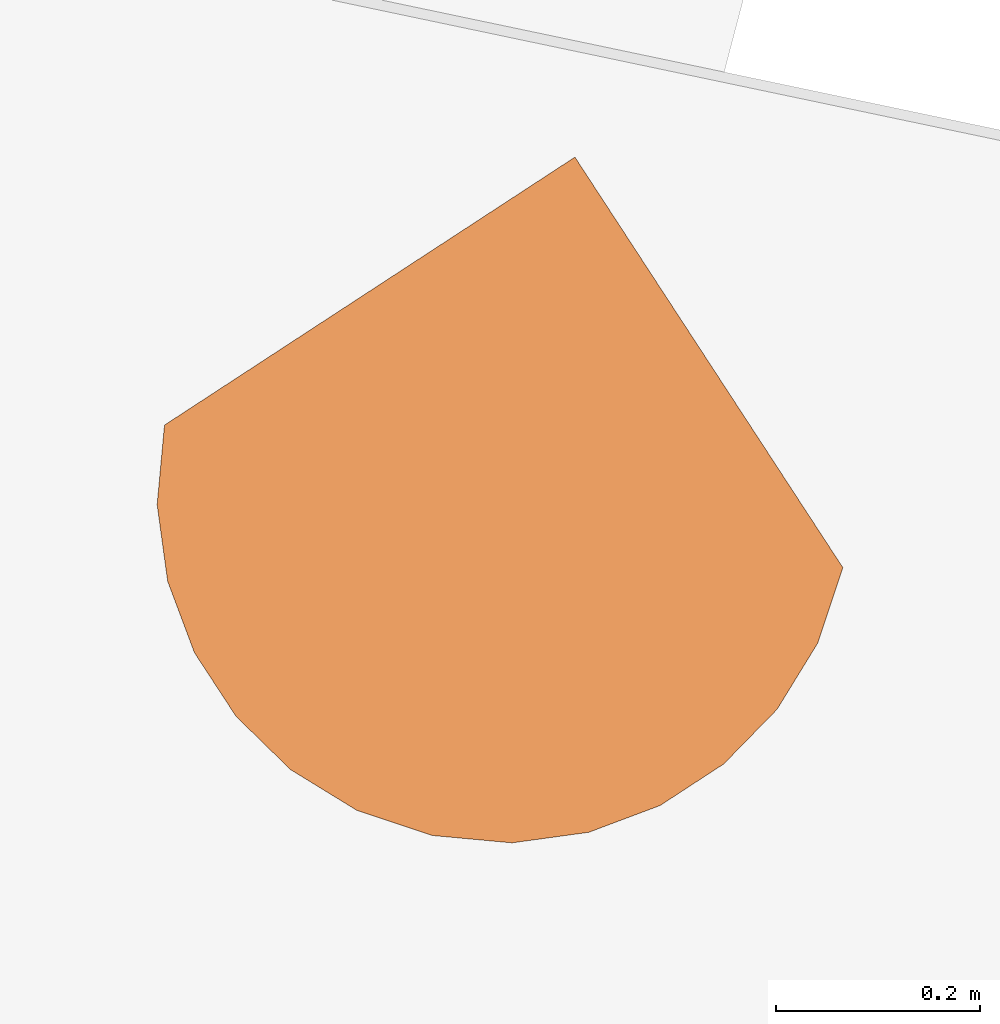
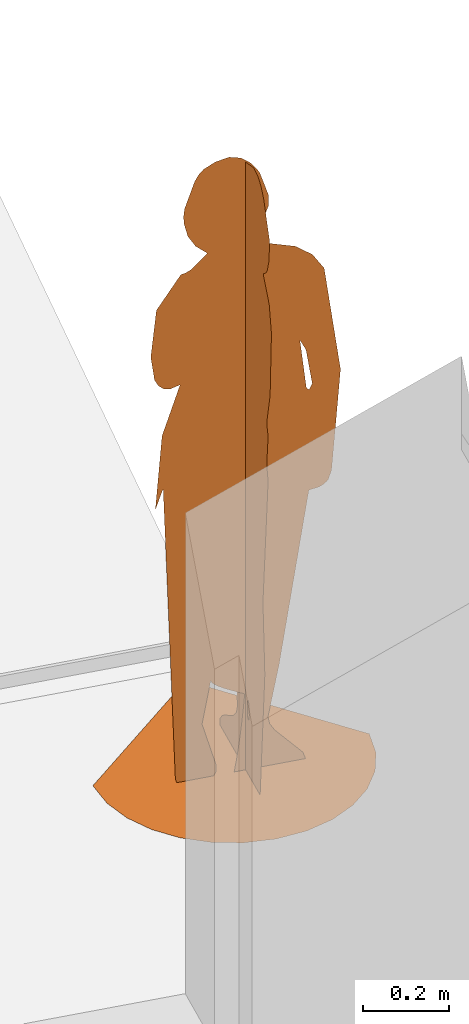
# One storey, part 20 of 20: 1 proxy.
"""IFC2X3 building model written with IfcOpenShell, lengths in metres."""

from ifc_helpers import new_model, entity, si_unit, converted_unit, derived_unit, direction, frame, origin, place, context, subcontext, project, spatial, face_set, surface_model, source, transform, mapped, type_object, type_shapes, element, save


model = new_model("IFC2X3")

# Units and contexts
model_context = context("Model", 3, precision=1e-05, world=origin(), true_north=direction((6.12303176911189e-17, 1.0)))
body_context = subcontext(model_context, "Body", "Model", "MODEL_VIEW")
ifc_project = project(units=[si_unit("LENGTHUNIT", "METRE"), si_unit("AREAUNIT", "SQUARE_METRE"), si_unit("VOLUMEUNIT", "CUBIC_METRE"), converted_unit("PLANEANGLEUNIT", "DEGREE", entity("IfcRatioMeasure", 0.0174532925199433), si_unit("PLANEANGLEUNIT", "RADIAN"), dimensions=[0, 0, 0, 0, 0, 0, 0]), si_unit("MASSUNIT", "GRAM", prefix="KILO"), derived_unit("MASSDENSITYUNIT", [(si_unit("MASSUNIT", "GRAM", prefix="KILO"), 1), (si_unit("LENGTHUNIT", "METRE"), -3)]), si_unit("TIMEUNIT", "SECOND"), si_unit("FREQUENCYUNIT", "HERTZ"), si_unit("THERMODYNAMICTEMPERATUREUNIT", "DEGREE_CELSIUS"), derived_unit("THERMALTRANSMITTANCEUNIT", [(si_unit("MASSUNIT", "GRAM", prefix="KILO"), 1), (si_unit("THERMODYNAMICTEMPERATUREUNIT", "KELVIN"), -1), (si_unit("TIMEUNIT", "SECOND"), -3)]), derived_unit("VOLUMETRICFLOWRATEUNIT", [(si_unit("LENGTHUNIT", "METRE"), 3), (si_unit("TIMEUNIT", "SECOND"), -1)]), si_unit("ELECTRICCURRENTUNIT", "AMPERE"), si_unit("ELECTRICVOLTAGEUNIT", "VOLT"), si_unit("POWERUNIT", "WATT"), si_unit("FORCEUNIT", "NEWTON", prefix="KILO"), si_unit("ILLUMINANCEUNIT", "LUX"), si_unit("LUMINOUSFLUXUNIT", "LUMEN"), si_unit("LUMINOUSINTENSITYUNIT", "CANDELA"), derived_unit("USERDEFINED", [(si_unit("MASSUNIT", "GRAM", prefix="KILO"), -1), (si_unit("LENGTHUNIT", "METRE"), -2), (si_unit("TIMEUNIT", "SECOND"), 3), (si_unit("LUMINOUSFLUXUNIT", "LUMEN"), 1)]), derived_unit("LINEARVELOCITYUNIT", [(si_unit("LENGTHUNIT", "METRE"), 1), (si_unit("TIMEUNIT", "SECOND"), -1)]), si_unit("PRESSUREUNIT", "PASCAL"), derived_unit("USERDEFINED", [(si_unit("LENGTHUNIT", "METRE"), -2), (si_unit("MASSUNIT", "GRAM", prefix="KILO"), 1), (si_unit("TIMEUNIT", "SECOND"), -2)])], contexts=[model_context])

# Site, building, storey
site_placement = place(None, origin())
site = spatial("IfcSite", under=ifc_project, at=site_placement, Name="Default", CompositionType="ELEMENT")
building_placement = place(site_placement, origin())
building = spatial("IfcBuilding", under=site, at=building_placement, CompositionType="ELEMENT")
storey_placement = place(building_placement, frame((0.0, 0.0, -0.0686871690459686)))
storey = spatial("IfcBuildingStorey", under=building, at=storey_placement, Name="RDC", CompositionType="ELEMENT", Elevation=-0.0686871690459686)

# Proxy
building_element_proxy_type = type_object("IfcBuildingElementProxyType", Name="YinYin", PredefinedType="NOTDEFINED")
shared_shape = source(origin(), body_context, "Body", "SurfaceModel", [
    surface_model("IfcFaceBasedSurfaceModel", [(0.0195612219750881, -0.157773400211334, 0.0), (0.0195612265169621, -0.0708273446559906, 0.211135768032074), (0.0195612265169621, -0.0723676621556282, 0.205901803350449), (0.0195612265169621, -0.0742961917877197, 0.196380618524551), (0.0195612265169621, -0.0759136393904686, 0.184608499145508), (0.0195612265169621, -0.0765207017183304, 0.172621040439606), (0.0195612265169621, -0.0754180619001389, 0.162454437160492), (0.0195612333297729, 0.0628445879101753, 0.962695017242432), (0.0195612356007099, 0.0953969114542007, 0.84001791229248), (0.0195612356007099, 0.0942716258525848, 0.840478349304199), (0.0195612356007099, 0.0920029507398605, 0.841665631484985), (0.0195612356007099, 0.0890270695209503, 0.843289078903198), (0.0195612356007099, 0.0857801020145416, 0.845057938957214), (0.0195612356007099, 0.0826982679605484, 0.846681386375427), (0.0195612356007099, 0.0802176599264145, 0.847868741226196), (0.0195612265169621, -0.0719064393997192, 0.156144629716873), (0.0195612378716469, 0.143858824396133, 0.0), (0.019561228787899, -0.0652864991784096, 0.155727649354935), (0.0195612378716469, 0.14120161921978, 0.0205520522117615), (0.0195612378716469, 0.124175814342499, 0.0394220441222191), (0.0195612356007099, 0.0981425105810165, 0.0575627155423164), (0.0195612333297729, 0.0684630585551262, 0.0759257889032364), (0.019561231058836, 0.040498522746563, 0.0954641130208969), (0.019561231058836, 0.0196101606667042, 0.117129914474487), (0.019561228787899, 0.0111591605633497, 0.141875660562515), (0.0195612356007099, 0.0787744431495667, 0.848329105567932), (0.019561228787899, -0.0625161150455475, 0.200054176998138), (0.019561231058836, 0.0275485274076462, 0.242721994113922), (0.019561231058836, 0.0316774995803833, 1.15030326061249), (0.0195612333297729, 0.0482999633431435, 1.147532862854), (0.019561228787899, -0.0656147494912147, 0.206642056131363), (0.019561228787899, -0.0670928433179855, 0.208618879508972), (0.0195612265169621, -0.0685512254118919, 0.210158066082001), (0.0195612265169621, -0.0698445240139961, 0.211062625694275), (0.0195612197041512, -0.193071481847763, 0.365672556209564), (0.0195612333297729, 0.0463653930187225, 0.289337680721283), (0.0195612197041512, -0.178873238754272, 0.562977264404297), (0.0195612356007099, 0.111011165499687, 0.373037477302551), (0.0195612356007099, 0.115741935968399, 0.386017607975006), (0.0195612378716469, 0.129441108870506, 0.51925758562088), (0.0195612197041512, -0.217658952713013, 0.934211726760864), (0.0195612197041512, -0.211334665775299, 0.953696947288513), (0.0195612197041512, -0.209226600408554, 0.990357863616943), (0.0195612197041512, -0.217658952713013, 1.06165031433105), (0.0195612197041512, -0.210505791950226, 1.08051464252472), (0.0195612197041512, -0.208859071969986, 1.09845511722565), (0.0195612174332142, -0.232549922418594, 1.18649167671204), (0.0195612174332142, -0.242592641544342, 1.36916526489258), (0.019561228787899, 0.00172249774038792, 1.35488052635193), (0.0195612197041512, -0.225970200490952, 1.44119575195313), (0.0195612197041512, -0.18441416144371, 1.49383352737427), (0.019561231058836, 0.0145355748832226, 1.42682439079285), (0.019561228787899, 0.0111308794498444, 1.43956983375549), (0.019561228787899, -0.0186669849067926, 1.49932185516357), (0.019561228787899, -0.0203543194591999, 1.51305328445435), (0.0195612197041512, -0.18441416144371, 1.50214464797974), (0.0195612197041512, -0.199708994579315, 1.51362214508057), (0.0195612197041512, -0.211034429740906, 1.5281208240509), (0.0195612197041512, -0.224133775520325, 1.5636801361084), (0.0195612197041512, -0.228740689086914, 1.62404258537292), (0.019561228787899, -0.000700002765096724, 1.66283701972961), (0.0195612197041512, -0.183905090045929, 1.71539035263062), (0.019561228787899, -0.00788756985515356, 1.68906070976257), (0.019561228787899, -0.0133298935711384, 1.69951733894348), (0.019561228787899, -0.0204396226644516, 1.70859701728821), (0.019561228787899, -0.0481992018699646, 1.72939356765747), (0.0195612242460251, -0.108007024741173, 1.7526), (0.0195612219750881, -0.164147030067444, 1.73759902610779), (0.0195612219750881, -0.139370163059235, 1.75094981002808), (0.183015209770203, -0.0493669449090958, 1.06442071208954), (-0.00866392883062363, -0.0493669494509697, 0.0), (-0.00315004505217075, -0.0493669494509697, 0.0322482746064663), (0.00208230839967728, -0.0493669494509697, 0.0693733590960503), (0.00682654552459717, -0.0493669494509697, 0.108190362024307), (0.010876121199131, -0.0493669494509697, 0.145514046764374), (0.0140244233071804, -0.0493669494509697, 0.178159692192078), (0.016064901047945, -0.0493669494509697, 0.20294211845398), (0.0167909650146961, -0.0493669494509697, 0.216676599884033), (0.175143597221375, -0.0493669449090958, 1.04699067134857), (-0.201092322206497, -0.0493669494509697, 0.790176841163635), (-0.202071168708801, -0.0493669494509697, 0.787380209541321), (-0.185448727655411, -0.0493669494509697, 0.995160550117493), (-0.198544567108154, -0.0493669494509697, 0.797986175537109), (-0.195010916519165, -0.0493669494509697, 0.808824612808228), (-0.191074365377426, -0.0493669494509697, 0.820707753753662), (-0.187318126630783, -0.0493669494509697, 0.831652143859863), (-0.184325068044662, -0.0493669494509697, 0.839673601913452), (-0.182678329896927, -0.0493669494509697, 0.842788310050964), (0.159973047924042, -0.0493669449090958, 0.0195097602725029), (0.166432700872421, -0.0493669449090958, 0.0), (0.0121870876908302, -0.0493669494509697, 0.219146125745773), (0.000313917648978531, -0.0493669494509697, 0.225079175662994), (-0.0159208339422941, -0.0493669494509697, 0.233486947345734), (-0.0336094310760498, -0.0493669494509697, 0.243380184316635), (-0.0498441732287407, -0.0493669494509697, 0.253770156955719), (-0.0617173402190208, -0.0493669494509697, 0.26366799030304), (-0.0663212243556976, -0.0493669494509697, 0.272084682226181), (0.0911993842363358, -0.0493669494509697, 0.0971624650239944), (0.0787407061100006, -0.0493669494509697, 0.117613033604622), (-0.0591492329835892, -0.0493669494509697, 0.0), (-0.14931704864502, -0.0493669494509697, 0.0), (-0.152811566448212, -0.0493669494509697, 0.0104443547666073), (-0.0525813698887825, -0.0493669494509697, 0.0110292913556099), (-0.0534087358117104, -0.0493669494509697, 0.031004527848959), (-0.087445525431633, -0.0493669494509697, 0.152957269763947), (0.168288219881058, -0.0493669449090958, 1.05600858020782), (-0.141122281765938, -0.0493669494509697, 1.13091040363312), (0.152540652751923, -0.0493669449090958, 1.1946297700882), (0.0743632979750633, -0.0493669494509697, 0.138932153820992), (0.101547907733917, -0.0493669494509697, 0.280655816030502), (0.17470398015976, -0.0493669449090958, 0.762446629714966), (0.198463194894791, -0.0493669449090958, 0.765520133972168), (0.205499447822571, -0.0493669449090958, 0.768233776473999), (0.211930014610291, -0.0493669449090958, 0.771993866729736), (0.217656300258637, -0.0493669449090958, 0.776921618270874), (0.222579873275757, -0.0493669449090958, 0.783138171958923), (0.230371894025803, -0.0493669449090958, 0.807151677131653), (0.252275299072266, -0.0493669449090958, 1.08935436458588), (0.167604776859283, -0.0493669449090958, 1.1635493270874), (0.212109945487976, -0.0493669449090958, 1.38570655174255), (0.183207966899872, -0.0493669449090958, 1.4310789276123), (0.141459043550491, -0.0493669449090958, 1.46335907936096), (0.0525419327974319, -0.0493669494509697, 1.49418088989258), (0.0459664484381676, -0.0493669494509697, 1.50275100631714), (-0.164303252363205, -0.0493669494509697, 1.12432468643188), (-0.182056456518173, -0.0493669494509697, 1.12815519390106), (-0.195060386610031, -0.0493669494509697, 1.14016056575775), (-0.203993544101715, -0.0493669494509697, 1.15809958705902), (-0.21315283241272, -0.0493669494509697, 1.22510429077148), (-0.199300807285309, -0.0493669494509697, 1.35531334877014), (-0.142137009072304, -0.0493669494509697, 1.43981415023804), (0.0457087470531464, -0.0493669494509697, 1.51298889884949), (-0.138351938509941, -0.0493669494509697, 1.44396622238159), (-0.126453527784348, -0.0493669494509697, 1.44648888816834), (-0.114043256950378, -0.0493669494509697, 1.45301552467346), (-0.0766084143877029, -0.0493669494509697, 1.48793635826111), (-0.0746325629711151, -0.0493669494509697, 1.4910630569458), (-0.103090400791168, -0.0493669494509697, 1.51675102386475), (-0.122098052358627, -0.0493669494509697, 1.54895690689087), (-0.131619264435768, -0.0493669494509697, 1.58673599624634), (-0.132811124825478, -0.0493669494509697, 1.60742019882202), (-0.130040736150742, -0.0493669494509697, 1.62958323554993), (0.0760082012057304, -0.0493669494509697, 1.59382785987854), (0.0750667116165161, -0.0493669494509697, 1.62562461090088), (0.053418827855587, -0.0493669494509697, 1.69380547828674), (0.0336907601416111, -0.0493669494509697, 1.72286271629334), (-0.105442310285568, -0.0493669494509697, 1.70150500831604), (0.00867887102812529, -0.0493669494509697, 1.74368005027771), (-0.0211277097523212, -0.0493669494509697, 1.75259375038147), (-0.0552397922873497, -0.0493669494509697, 1.74594052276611), (-0.0961691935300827, -0.0493669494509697, 1.71794455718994), (-0.0840080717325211, -0.0493669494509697, 1.73114462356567), (0.3390976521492, 1.6199449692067e-07, 0.0), (-4.39594892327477e-08, 0.339097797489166, 0.0), (-0.3390976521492, 1.33559203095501e-07, 0.0), (0.330132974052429, -0.0776985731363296, 0.0), (-0.330132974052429, -0.0776986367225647, 0.0), (0.304601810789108, -0.149052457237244, 0.0), (-0.304601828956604, -0.149052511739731, 0.0), (-0.264548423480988, -0.212017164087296, 0.0), (0.264548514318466, -0.212017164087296, 0.0), (0.212017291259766, -0.264548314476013, 1.12014010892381e-07), (-0.212017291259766, -0.2645483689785, 0.0), (-0.149052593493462, -0.304601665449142, 0.0), (-0.0776987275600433, -0.330132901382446, 0.0), (1.41990389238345e-08, -0.339097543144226, 1.12014010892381e-07), (0.0776987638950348, -0.330132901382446, 1.12014010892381e-07), (0.149052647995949, -0.304601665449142, 1.12014010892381e-07)], [face_set([[[0, 1, 2]], [[0, 2, 3]], [[0, 3, 4]], [[0, 4, 5]], [[0, 5, 6]], [[7, 8, 9]], [[7, 9, 10]], [[7, 10, 11]], [[7, 11, 12]], [[7, 12, 13]], [[7, 13, 14]], [[0, 6, 15]], [[16, 0, 15]], [[16, 15, 17]], [[18, 16, 17]], [[19, 18, 17]], [[20, 19, 17]], [[21, 20, 17]], [[22, 21, 17]], [[23, 22, 17]], [[24, 23, 17]], [[7, 14, 25]], [[24, 17, 26]], [[27, 24, 26]], [[28, 29, 7]], [[27, 26, 30]], [[27, 30, 31]], [[27, 31, 32]], [[27, 32, 33]], [[1, 0, 34]], [[33, 1, 34]], [[27, 33, 34]], [[35, 27, 34]], [[35, 34, 36]], [[37, 35, 36]], [[38, 37, 36]], [[39, 38, 36]], [[25, 39, 36]], [[7, 25, 36]], [[7, 36, 40]], [[7, 40, 41]], [[28, 7, 41]], [[28, 41, 42]], [[28, 42, 43]], [[28, 43, 44]], [[28, 44, 45]], [[28, 45, 46]], [[28, 46, 47]], [[48, 28, 47]], [[48, 47, 49]], [[48, 49, 50]], [[51, 48, 50]], [[52, 51, 50]], [[53, 52, 50]], [[54, 53, 50]], [[54, 50, 55]], [[54, 55, 56]], [[54, 56, 57]], [[54, 57, 58]], [[54, 58, 59]], [[60, 54, 59]], [[60, 59, 61]], [[62, 60, 61]], [[63, 62, 61]], [[64, 63, 61]], [[65, 64, 61]], [[66, 65, 61]], [[66, 61, 67]], [[68, 66, 67]], [[69, 70, 71]], [[69, 71, 72]], [[69, 72, 73]], [[69, 73, 74]], [[69, 74, 75]], [[69, 75, 76]], [[69, 76, 77]], [[78, 69, 77]], [[79, 80, 81]], [[82, 79, 81]], [[83, 82, 81]], [[84, 83, 81]], [[85, 84, 81]], [[86, 85, 81]], [[87, 86, 81]], [[88, 89, 70]], [[78, 77, 90]], [[78, 90, 91]], [[78, 91, 92]], [[78, 92, 93]], [[78, 93, 94]], [[78, 94, 95]], [[78, 95, 96]], [[97, 88, 70]], [[98, 97, 70]], [[99, 100, 101]], [[102, 99, 101]], [[103, 102, 101]], [[104, 103, 101]], [[104, 101, 87]], [[96, 104, 87]], [[78, 96, 87]], [[78, 87, 81]], [[105, 78, 81]], [[105, 81, 106]], [[107, 105, 106]], [[108, 98, 70]], [[108, 70, 69]], [[109, 108, 69]], [[110, 109, 69]], [[111, 110, 69]], [[112, 111, 69]], [[113, 112, 69]], [[114, 113, 69]], [[115, 114, 69]], [[116, 115, 69]], [[117, 116, 69]], [[117, 69, 118]], [[117, 118, 107]], [[119, 117, 107]], [[119, 107, 106]], [[120, 119, 106]], [[121, 120, 106]], [[122, 121, 106]], [[123, 122, 106]], [[123, 106, 124]], [[123, 124, 125]], [[123, 125, 126]], [[123, 126, 127]], [[123, 127, 128]], [[123, 128, 129]], [[123, 129, 130]], [[131, 123, 130]], [[130, 132, 133]], [[131, 130, 133]], [[131, 133, 134]], [[131, 134, 135]], [[131, 135, 136]], [[131, 136, 137]], [[131, 137, 138]], [[131, 138, 139]], [[131, 139, 140]], [[131, 140, 141]], [[142, 131, 141]], [[143, 142, 141]], [[144, 143, 141]], [[145, 144, 141]], [[145, 141, 146]], [[147, 145, 146]], [[148, 147, 146]], [[149, 148, 146]], [[149, 146, 150]], [[151, 149, 150]], [[152, 153, 154]], [[155, 152, 154]], [[155, 154, 156]], [[157, 155, 156]], [[157, 156, 158]], [[157, 158, 159]], [[160, 157, 159]], [[161, 160, 159]], [[161, 159, 162]], [[161, 162, 163]], [[161, 163, 164]], [[161, 164, 165]], [[161, 165, 166]], [[161, 166, 167]]])]),
])
type_shapes(building_element_proxy_type, [shared_shape])
proxy_placement = place(storey_placement, frame((-13.1778450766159, 86.8608615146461, 0.0), z_axis=(0.0, 0.0, 1.0), x_axis=(0.978645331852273, -0.205556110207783, 0.0)))
element("IfcBuildingElementProxy", 1, at=proxy_placement, inside=storey, type_object=building_element_proxy_type, Name="RPC Femme:YinYin", ObjectType="RPC Femme:YinYin", context=body_context, shape_type="MappedRepresentation", body=[
    mapped(shared_shape, transform((0.0, 0.0, 0.0), scale=1.0)),
])

save(model, "model.ifc")
